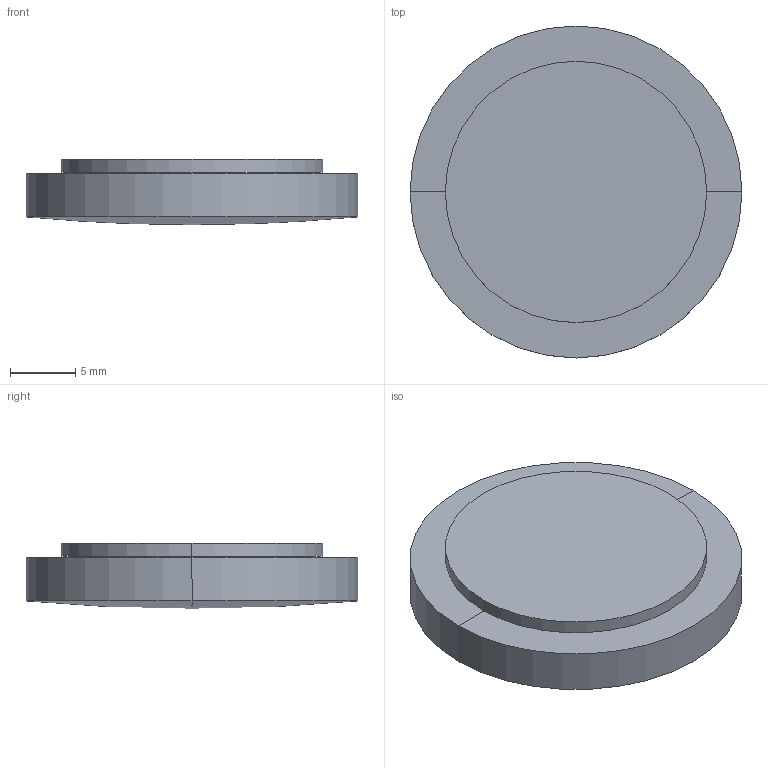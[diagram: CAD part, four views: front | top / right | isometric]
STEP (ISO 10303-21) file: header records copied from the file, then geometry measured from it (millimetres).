
FILE_DESCRIPTION(('STEP AP214'),'1');
FILE_NAME('LLV-25240.STEP','2020-03-09T17:42:22',(' '),(' '),'Spatial InterOp 3D',' ',' ');
FILE_SCHEMA(('AUTOMOTIVE_DESIGN { 1 0 10303 214 1 1 1 1 }'));
Length unit declared in the file: millimetre
Products named in the file (1): 1
Bounding box: 25.4 x 25.4 x 5 mm (x, y, z)
Volume: 2172.1 mm3; surface area: 1971.6 mm2
Topology: 2 solids, 2 shells, 10 faces, 20 edges, 10 vertices
Faces by surface type: sphere 4, cylinder 4, plane 2
Entity records: 255 total; most frequent: DIRECTION 52, CARTESIAN_POINT 38, ORIENTED_EDGE 32, AXIS2_PLACEMENT_3D 24, EDGE_CURVE 16, CIRCLE 12, ADVANCED_FACE 10, FACE_OUTER_BOUND 10
